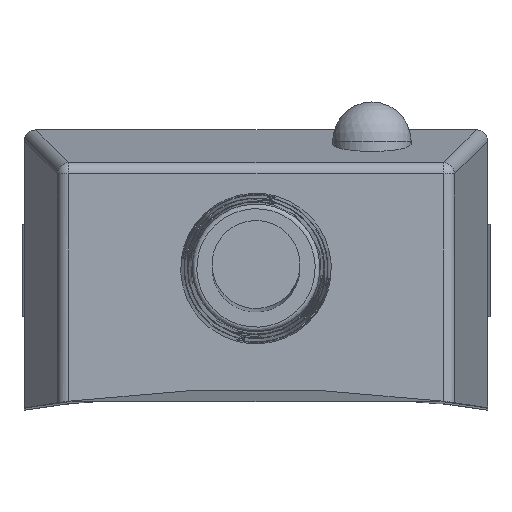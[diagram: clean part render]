
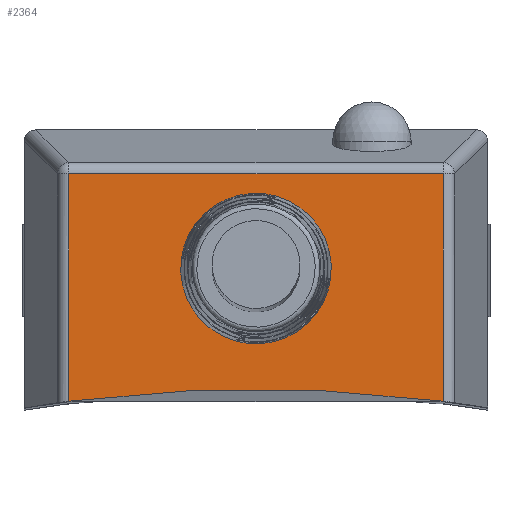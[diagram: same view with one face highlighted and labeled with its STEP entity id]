
A CAD part, top view. The second image highlights one B-rep face of the part: STEP entity #2364.
In plain terms, the highlighted planar face has unit normal (0, 0, 1).
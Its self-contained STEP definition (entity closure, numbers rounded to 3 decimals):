
#106=LINE('',#3558,#309);
#139=LINE('',#3667,#342);
#140=LINE('',#3671,#343);
#309=VECTOR('',#2820,16.17);
#342=VECTOR('',#2919,9.81);
#343=VECTOR('',#2924,9.81);
#495=FACE_BOUND('',#746,.T.);
#594=FACE_OUTER_BOUND('',#745,.T.);
#745=EDGE_LOOP('',(#1686,#1687,#1688,#1689));
#746=EDGE_LOOP('',(#1690));
#899=CIRCLE('',#2544,62.5);
#900=CIRCLE('',#2545,3.25);
#978=VERTEX_POINT('',#3499);
#996=VERTEX_POINT('',#3557);
#1025=VERTEX_POINT('',#3656);
#1026=VERTEX_POINT('',#3669);
#1027=VERTEX_POINT('',#3672);
#1232=EDGE_CURVE('',#978,#996,#106,.T.);
#1281=EDGE_CURVE('',#1025,#978,#139,.T.);
#1282=EDGE_CURVE('',#1025,#1026,#899,.T.);
#1283=EDGE_CURVE('',#996,#1026,#140,.T.);
#1284=EDGE_CURVE('',#1027,#1027,#900,.T.);
#1686=ORIENTED_EDGE('',*,*,#1281,.F.);
#1687=ORIENTED_EDGE('',*,*,#1282,.T.);
#1688=ORIENTED_EDGE('',*,*,#1283,.F.);
#1689=ORIENTED_EDGE('',*,*,#1232,.F.);
#1690=ORIENTED_EDGE('',*,*,#1284,.T.);
#2256=PLANE('',#2543);
#2364=ADVANCED_FACE('',(#594,#495),#2256,.T.);
#2543=AXIS2_PLACEMENT_3D('',#3668,#2920,#2921);
#2544=AXIS2_PLACEMENT_3D('',#3670,#2922,#2923);
#2545=AXIS2_PLACEMENT_3D('',#3673,#2925,#2926);
#2820=DIRECTION('',(1.,0.,0.));
#2919=DIRECTION('',(0.,1.,0.));
#2920=DIRECTION('center_axis',(0.,0.,1.));
#2921=DIRECTION('ref_axis',(-1.,0.,0.));
#2922=DIRECTION('center_axis',(0.,0.,-1.));
#2923=DIRECTION('ref_axis',(-0.129,0.992,0.));
#2924=DIRECTION('',(0.,-1.,0.));
#2925=DIRECTION('center_axis',(0.,0.,-1.));
#2926=DIRECTION('ref_axis',(0.835,0.55,0.));
#3499=CARTESIAN_POINT('',(-3.013,8.901,34.997));
#3557=CARTESIAN_POINT('',(13.157,8.901,34.997));
#3558=CARTESIAN_POINT('',(-3.013,8.901,34.997));
#3656=CARTESIAN_POINT('',(-3.013,-0.909,34.997));
#3667=CARTESIAN_POINT('',(-3.013,-0.909,34.997));
#3668=CARTESIAN_POINT('Origin',(5.072,-1.184,34.997));
#3669=CARTESIAN_POINT('',(13.157,-0.909,34.997));
#3670=CARTESIAN_POINT('Origin',(5.072,-62.884,34.997));
#3671=CARTESIAN_POINT('',(13.157,8.901,34.997));
#3672=CARTESIAN_POINT('',(7.787,6.602,34.997));
#3673=CARTESIAN_POINT('Origin',(5.072,4.816,34.997));
